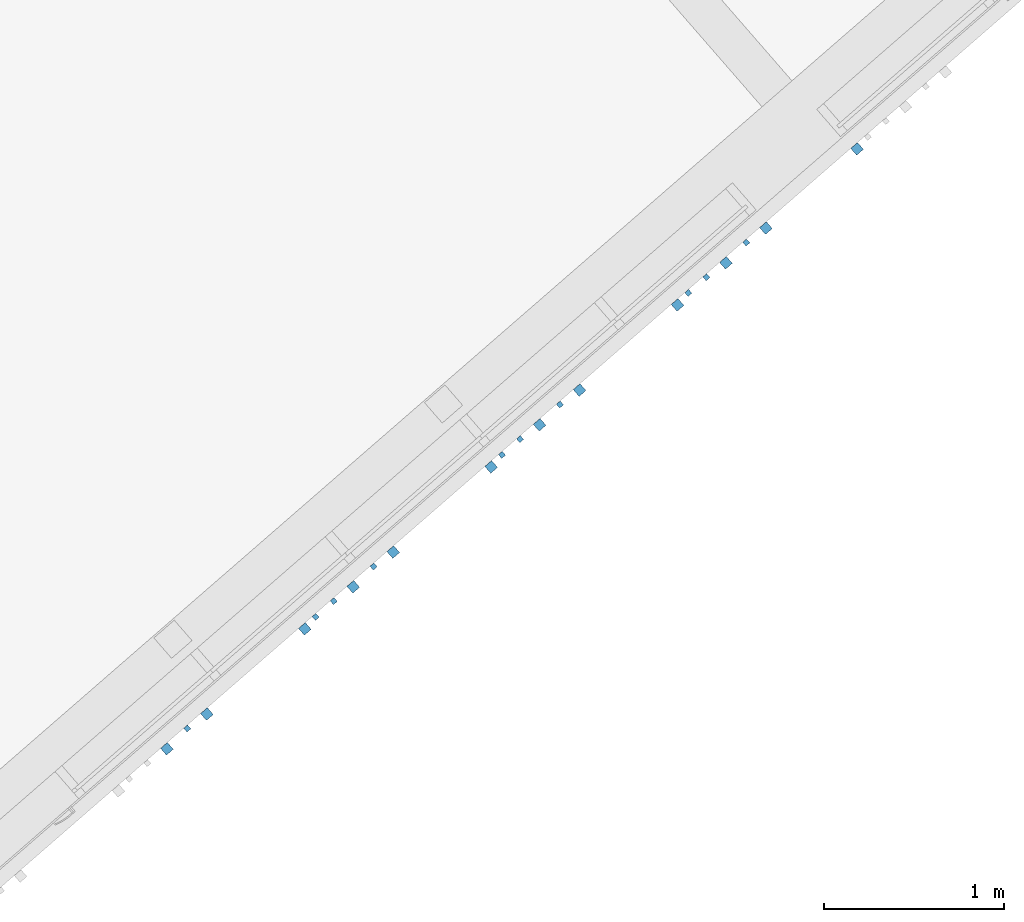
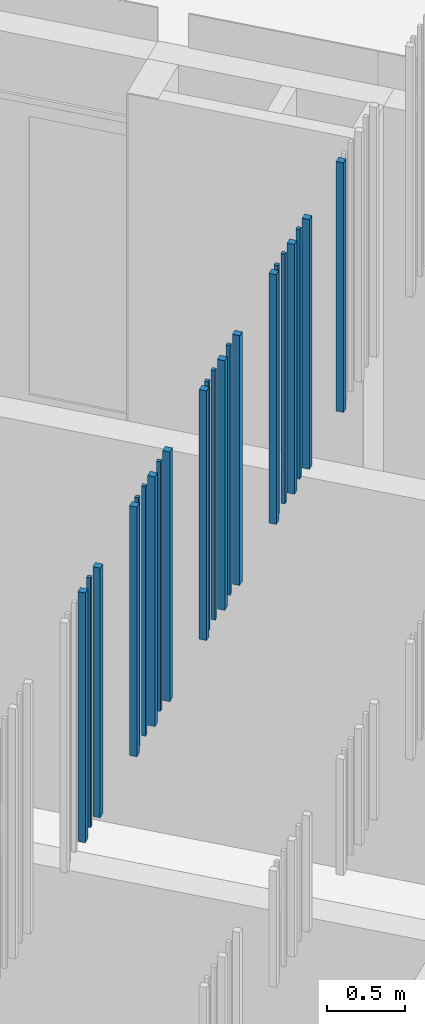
# One storey, part 68 of 124: 22 walls.
"""IFC2X3 building model written with IfcOpenShell, lengths in millimetres."""

from ifc_helpers import new_model, entity, si_unit, converted_unit, derived_unit, money_unit, direction, frame, origin_with_axes, place, context, subcontext, project, spatial, faceted_brep, material, type_object, element, save


model = new_model("IFC2X3")

# Units and contexts
model_context = context("Model", 3, precision=1e-05, world=origin_with_axes(), true_north=direction((0.0, 1.0)))
body_context = subcontext(model_context, "Body", "Model", "MODEL_VIEW")
ifc_project = project(units=[si_unit("LENGTHUNIT", "METRE", prefix="MILLI"), si_unit("AREAUNIT", "SQUARE_METRE"), si_unit("VOLUMEUNIT", "CUBIC_METRE"), converted_unit("PLANEANGLEUNIT", "DEGREE", entity("IfcPlaneAngleMeasure", 0.0174532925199), si_unit("PLANEANGLEUNIT", "RADIAN"), dimensions=[0, 0, 0, 0, 0, 0, 0]), si_unit("SOLIDANGLEUNIT", "STERADIAN"), money_unit("EUR"), converted_unit("TIMEUNIT", "Year", entity("IfcTimeMeasure", 31556926.0), si_unit("TIMEUNIT", "SECOND"), dimensions=[0, 0, 1, 0, 0, 0, 0]), si_unit("MASSUNIT", "GRAM", prefix="KILO"), si_unit("THERMODYNAMICTEMPERATUREUNIT", "DEGREE_CELSIUS"), si_unit("LUMINOUSINTENSITYUNIT", "LUMEN"), si_unit("ENERGYUNIT", "JOULE", prefix="MEGA"), derived_unit("THERMALCONDUCTANCEUNIT", [(si_unit("POWERUNIT", "WATT"), 1), (si_unit("LENGTHUNIT", "METRE"), -1), (si_unit("THERMODYNAMICTEMPERATUREUNIT", "KELVIN"), -1)]), derived_unit("SPECIFICHEATCAPACITYUNIT", [(si_unit("ENERGYUNIT", "JOULE"), 1), (si_unit("MASSUNIT", "GRAM", prefix="KILO"), -1), (si_unit("THERMODYNAMICTEMPERATUREUNIT", "KELVIN"), -1)]), derived_unit("MASSDENSITYUNIT", [(si_unit("MASSUNIT", "GRAM", prefix="KILO"), 1), (si_unit("VOLUMEUNIT", "CUBIC_METRE"), -1)])], contexts=[model_context])

# Site, building, storey
site_placement = place(None, origin_with_axes())
site = spatial("IfcSite", under=ifc_project, at=site_placement, Name="Site", CompositionType="ELEMENT")
building_placement = place(site_placement, origin_with_axes())
building = spatial("IfcBuilding", under=site, at=building_placement, Name="Building", CompositionType="ELEMENT")
storey_placement = place(building_placement, frame((0.0, 0.0, -1615.0), z_axis=(0.0, 0.0, 1.0), x_axis=(1.0, 0.0, 0.0)))
storey = spatial("IfcBuildingStorey", under=building, at=storey_placement, Name="0  korrus", CompositionType="ELEMENT", Elevation=-1615.0)

# Walls
ifc_material = material(Name="Site specified")
wall_type = type_object("IfcWallType", Name="Puitfassaadi ribistik", PredefinedType="NOTDEFINED")
for number, where, z_axis, x_axis, name in (
    (1, (163312.976496, 86596.4212381, 9530.0), (0.0, 0.0, 1.0), (-0.754709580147, -0.656059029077, 0.0), "Site specified"),
    (2, (162585.426277, 85963.9714798, 9530.0), (0.0, 0.0, 1.0), (-0.754709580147, -0.656059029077, 0.0), "Site specified"),
    (3, (162807.310892, 86156.8528329, 9530.0), (0.0, 0.0, 1.0), (-0.754709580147, -0.656059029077, 0.0), "Site specified"),
):
    element("IfcWall", number, at=place(storey_placement, frame(where, z_axis=z_axis, x_axis=x_axis)), inside=storey, type_object=wall_type, material=ifc_material, Name=name, context=body_context, shape_type="Brep", body=[
        faceted_brep([(25.0, 25.0, 1950.0), (25.0, 25.0, 0.0), (-25.0, 25.0, 0.0), (-25.0, 25.0, 1950.0), (25.0, -25.0, 1950.0), (25.0, -25.0, 0.0), (-25.0, -25.0, 0.0), (-25.0, -25.0, 1950.0)], [[[0, 1, 2, 3]], [[4, 5, 1, 0]], [[2, 1, 5, 6]], [[3, 2, 6, 7]], [[4, 0, 3, 7]], [[7, 6, 5, 4]]]),
    ])
for number, where, z_axis, x_axis, name in (
    (4, (162477.076684, 85884.359759, 9530.0), (0.0, 0.0, 1.0), (-0.754709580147, -0.656059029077, 0.0), "Site specified"),
    (5, (162698.20657, 86076.5850355, 9530.0), (0.0, 0.0, 1.0), (-0.754709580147, -0.656059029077, 0.0), "Site specified"),
    (6, (162376.700311, 85797.1039087, 9530.0), (0.0, 0.0, 1.0), (-0.754709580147, -0.656059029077, 0.0), "Site specified"),
):
    element("IfcWall", number, at=place(storey_placement, frame(where, z_axis=z_axis, x_axis=x_axis)), inside=storey, type_object=wall_type, material=ifc_material, Name=name, context=body_context, shape_type="Brep", body=[
        faceted_brep([(14.0, 14.0, 1950.0), (14.0, 14.0, 0.0), (-14.0, 14.0, 0.0), (-14.0, 14.0, 1950.0), (14.0, -14.0, 1950.0), (14.0, -14.0, 0.0), (-14.0, -14.0, 0.0), (-14.0, -14.0, 1950.0)], [[[0, 1, 2, 3]], [[4, 5, 1, 0]], [[2, 1, 5, 6]], [[3, 2, 6, 7]], [[4, 0, 3, 7]], [[7, 6, 5, 4]]]),
    ])
for number, where, z_axis, x_axis, name in (
    (7, (162316.745415, 85730.4107697, 9530.0), (0.0, 0.0, 1.0), (-0.754709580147, -0.656059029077, 0.0), "Site specified"),
    (8, (161282.79329, 84831.6098999, 9530.0), (0.0, 0.0, 1.0), (-0.754709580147, -0.656059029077, 0.0), "Site specified"),
    (9, (161551.474152, 85065.17061, 9530.0), (0.0, 0.0, 1.0), (-0.754709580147, -0.656059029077, 0.0), "Site specified"),
    (10, (160517.522027, 84166.3697402, 9530.0), (0.0, 0.0, 1.0), (-0.754709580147, -0.656059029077, 0.0), "Site specified"),
    (11, (160248.841165, 83932.8090301, 9530.0), (0.0, 0.0, 1.0), (-0.754709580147, -0.656059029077, 0.0), "Site specified"),
):
    element("IfcWall", number, at=place(storey_placement, frame(where, z_axis=z_axis, x_axis=x_axis)), inside=storey, type_object=wall_type, material=ifc_material, Name=name, context=body_context, shape_type="Brep", body=[
        faceted_brep([(25.0, 25.0, 1950.0), (25.0, 25.0, 0.0), (-25.0, 25.0, 0.0), (-25.0, 25.0, 1950.0), (25.0, -25.0, 1950.0), (25.0, -25.0, 0.0), (-25.0, -25.0, 0.0), (-25.0, -25.0, 1950.0)], [[[0, 1, 2, 3]], [[4, 5, 1, 0]], [[2, 1, 5, 6]], [[3, 2, 6, 7]], [[4, 0, 3, 7]], [[7, 6, 5, 4]]]),
    ])
for number, where, z_axis, x_axis, name in (
    (12, (160409.172435, 84086.7580194, 9530.0), (0.0, 0.0, 1.0), (-0.754709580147, -0.656059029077, 0.0), "Site specified"),
    (13, (160630.30232, 84278.9832959, 9530.0), (0.0, 0.0, 1.0), (-0.754709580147, -0.656059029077, 0.0), "Site specified"),
):
    element("IfcWall", number, at=place(storey_placement, frame(where, z_axis=z_axis, x_axis=x_axis)), inside=storey, type_object=wall_type, material=ifc_material, Name=name, context=body_context, shape_type="Brep", body=[
        faceted_brep([(14.0, 14.0, 1950.0), (14.0, 14.0, 0.0), (-14.0, 14.0, 0.0), (-14.0, 14.0, 1950.0), (14.0, -14.0, 1950.0), (14.0, -14.0, 0.0), (-14.0, -14.0, 0.0), (-14.0, -14.0, 1950.0)], [[[0, 1, 2, 3]], [[4, 5, 1, 0]], [[2, 1, 5, 6]], [[3, 2, 6, 7]], [[4, 0, 3, 7]], [[7, 6, 5, 4]]]),
    ])
wall_1_placement = place(storey_placement, frame((160739.406642, 84359.2510933, 9530.0), z_axis=(0.0, 0.0, 1.0), x_axis=(-0.754709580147, -0.656059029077, 0.0)))
element("IfcWall", 14, at=wall_1_placement, inside=storey, type_object=wall_type, material=ifc_material, Name="Site specified", context=body_context, shape_type="Brep", body=[
    faceted_brep([(25.0, 25.0, 1950.0), (25.0, 25.0, 0.0), (-25.0, 25.0, 0.0), (-25.0, 25.0, 1950.0), (25.0, -25.0, 1950.0), (25.0, -25.0, 0.0), (-25.0, -25.0, 0.0), (-25.0, -25.0, 1950.0)], [[[0, 1, 2, 3]], [[4, 5, 1, 0]], [[2, 1, 5, 6]], [[3, 2, 6, 7]], [[4, 0, 3, 7]], [[7, 6, 5, 4]]]),
])
wall_2_placement = place(storey_placement, frame((160308.796061, 83999.502169, 9530.0), z_axis=(0.0, 0.0, 1.0), x_axis=(-0.754709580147, -0.656059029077, 0.0)))
element("IfcWall", 15, at=wall_2_placement, inside=storey, type_object=wall_type, material=ifc_material, Name="Site specified", context=body_context, shape_type="Brep", body=[
    faceted_brep([(14.0, 14.0, 1950.0), (14.0, 14.0, 0.0), (-14.0, 14.0, 0.0), (-14.0, 14.0, 1950.0), (14.0, -14.0, 1950.0), (14.0, -14.0, 0.0), (-14.0, -14.0, 0.0), (-14.0, -14.0, 1950.0)], [[[0, 1, 2, 3]], [[4, 5, 1, 0]], [[2, 1, 5, 6]], [[3, 2, 6, 7]], [[4, 0, 3, 7]], [[7, 6, 5, 4]]]),
])
wall_3_placement = place(storey_placement, frame((159483.569902, 83267.5688704, 9530.0), z_axis=(0.0, 0.0, 1.0), x_axis=(-0.754709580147, -0.656059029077, 0.0)))
element("IfcWall", 16, at=wall_3_placement, inside=storey, type_object=wall_type, material=ifc_material, Name="Site specified", context=body_context, shape_type="Brep", body=[
    faceted_brep([(25.0, 25.0, 1950.0), (25.0, 25.0, 0.0), (-25.0, 25.0, 0.0), (-25.0, 25.0, 1950.0), (25.0, -25.0, 1950.0), (25.0, -25.0, 0.0), (-25.0, -25.0, 0.0), (-25.0, -25.0, 1950.0)], [[[0, 1, 2, 3]], [[4, 5, 1, 0]], [[2, 1, 5, 6]], [[3, 2, 6, 7]], [[4, 0, 3, 7]], [[7, 6, 5, 4]]]),
])
wall_4_placement = place(storey_placement, frame((159596.350195, 83380.1824261, 9530.0), z_axis=(0.0, 0.0, 1.0), x_axis=(-0.754709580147, -0.656059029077, 0.0)))
element("IfcWall", 17, at=wall_4_placement, inside=storey, type_object=wall_type, material=ifc_material, Name="Site specified", context=body_context, shape_type="Brep", body=[
    faceted_brep([(14.0, 14.0, 1950.0), (14.0, 14.0, 0.0), (-14.0, 14.0, 0.0), (-14.0, 14.0, 1950.0), (14.0, -14.0, 1950.0), (14.0, -14.0, 0.0), (-14.0, -14.0, 0.0), (-14.0, -14.0, 1950.0)], [[[0, 1, 2, 3]], [[4, 5, 1, 0]], [[2, 1, 5, 6]], [[3, 2, 6, 7]], [[4, 0, 3, 7]], [[7, 6, 5, 4]]]),
])
wall_5_placement = place(storey_placement, frame((159705.454517, 83460.4502235, 9530.0), z_axis=(0.0, 0.0, 1.0), x_axis=(-0.754709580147, -0.656059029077, 0.0)))
element("IfcWall", 18, at=wall_5_placement, inside=storey, type_object=wall_type, material=ifc_material, Name="Site specified", context=body_context, shape_type="Brep", body=[
    faceted_brep([(25.0, 25.0, 1950.0), (25.0, 25.0, 0.0), (-25.0, 25.0, 0.0), (-25.0, 25.0, 1950.0), (25.0, -25.0, 1950.0), (25.0, -25.0, 0.0), (-25.0, -25.0, 0.0), (-25.0, -25.0, 1950.0)], [[[0, 1, 2, 3]], [[4, 5, 1, 0]], [[2, 1, 5, 6]], [[3, 2, 6, 7]], [[4, 0, 3, 7]], [[7, 6, 5, 4]]]),
])
for number, where, z_axis, x_axis, name in (
    (19, (161443.12456, 84985.5588892, 9530.0), (0.0, 0.0, 1.0), (-0.754709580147, -0.656059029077, 0.0), "Site specified"),
    (20, (161342.748186, 84898.3030388, 9530.0), (0.0, 0.0, 1.0), (-0.754709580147, -0.656059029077, 0.0), "Site specified"),
    (21, (161664.254445, 85177.7841657, 9530.0), (0.0, 0.0, 1.0), (-0.754709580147, -0.656059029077, 0.0), "Site specified"),
):
    element("IfcWall", number, at=place(storey_placement, frame(where, z_axis=z_axis, x_axis=x_axis)), inside=storey, type_object=wall_type, material=ifc_material, Name=name, context=body_context, shape_type="Brep", body=[
        faceted_brep([(14.0, 14.0, 1950.0), (14.0, 14.0, 0.0), (-14.0, 14.0, 0.0), (-14.0, 14.0, 1950.0), (14.0, -14.0, 1950.0), (14.0, -14.0, 0.0), (-14.0, -14.0, 0.0), (-14.0, -14.0, 1950.0)], [[[0, 1, 2, 3]], [[4, 5, 1, 0]], [[2, 1, 5, 6]], [[3, 2, 6, 7]], [[4, 0, 3, 7]], [[7, 6, 5, 4]]]),
    ])
wall_6_placement = place(storey_placement, frame((161773.358767, 85258.0519631, 9530.0), z_axis=(0.0, 0.0, 1.0), x_axis=(-0.754709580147, -0.656059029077, 0.0)))
element("IfcWall", 22, at=wall_6_placement, inside=storey, type_object=wall_type, material=ifc_material, Name="Site specified", context=body_context, shape_type="Brep", body=[
    faceted_brep([(25.0, 25.0, 1950.0), (25.0, 25.0, 0.0), (-25.0, 25.0, 0.0), (-25.0, 25.0, 1950.0), (25.0, -25.0, 1950.0), (25.0, -25.0, 0.0), (-25.0, -25.0, 0.0), (-25.0, -25.0, 1950.0)], [[[0, 1, 2, 3]], [[4, 5, 1, 0]], [[2, 1, 5, 6]], [[3, 2, 6, 7]], [[4, 0, 3, 7]], [[7, 6, 5, 4]]]),
])

save(model, "model.ifc")
